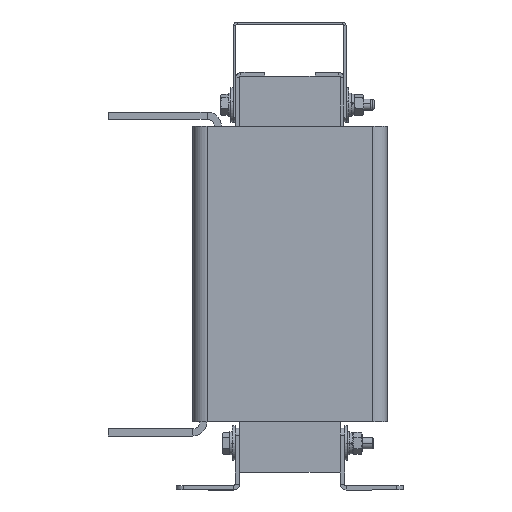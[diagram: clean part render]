
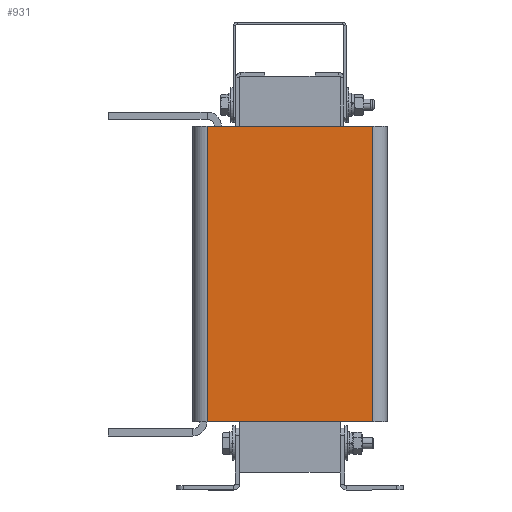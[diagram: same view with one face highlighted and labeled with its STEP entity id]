
A CAD part, left-side view. The second image highlights one B-rep face of the part: STEP entity #931.
In plain terms, the highlighted planar face has unit normal (-1, 0, 0).
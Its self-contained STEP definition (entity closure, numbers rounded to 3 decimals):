
#50 = VERTEX_POINT ( 'NONE', #5070 ) ;
#104 = CARTESIAN_POINT ( 'NONE',  ( -43.5, 67.5, 0. ) ) ;
#230 = DIRECTION ( 'NONE',  ( 0., -1., 0. ) ) ;
#398 = ORIENTED_EDGE ( 'NONE', *, *, #8044, .F. ) ;
#931 = ADVANCED_FACE ( 'NONE', ( #5205 ), #1075, .T. ) ;
#1075 = PLANE ( 'NONE',  #1789 ) ;
#1134 = VECTOR ( 'NONE', #4591, 1000. ) ;
#1225 = DIRECTION ( 'NONE',  ( 0., 0., 1. ) ) ;
#1789 = AXIS2_PLACEMENT_3D ( 'NONE', #3656, #8483, #1225 ) ;
#3010 = VECTOR ( 'NONE', #8323, 1000. ) ;
#3023 = DIRECTION ( 'NONE',  ( 0., 0., 1. ) ) ;
#3044 = EDGE_CURVE ( 'NONE', #4021, #50, #5212, .T. ) ;
#3119 = EDGE_CURVE ( 'NONE', #50, #5135, #5310, .T. ) ;
#3349 = VECTOR ( 'NONE', #3023, 1000. ) ;
#3656 = CARTESIAN_POINT ( 'NONE',  ( -43.5, 67.5, -205. ) ) ;
#4021 = VERTEX_POINT ( 'NONE', #9113 ) ;
#4591 = DIRECTION ( 'NONE',  ( 0., 0., -1. ) ) ;
#4634 = CARTESIAN_POINT ( 'NONE',  ( -43.5, -57.5, -205. ) ) ;
#4912 = ORIENTED_EDGE ( 'NONE', *, *, #6223, .T. ) ;
#5006 = CARTESIAN_POINT ( 'NONE',  ( -43.5, 57.5, 0. ) ) ;
#5070 = CARTESIAN_POINT ( 'NONE',  ( -43.5, -57.5, -205. ) ) ;
#5135 = VERTEX_POINT ( 'NONE', #6510 ) ;
#5205 = FACE_OUTER_BOUND ( 'NONE', #5393, .T. ) ;
#5212 = LINE ( 'NONE', #9827, #6048 ) ;
#5310 = LINE ( 'NONE', #4634, #3349 ) ;
#5393 = EDGE_LOOP ( 'NONE', ( #8991, #8684, #398, #4912 ) ) ;
#5928 = LINE ( 'NONE', #104, #3010 ) ;
#6048 = VECTOR ( 'NONE', #230, 1000. ) ;
#6223 = EDGE_CURVE ( 'NONE', #6559, #4021, #9296, .T. ) ;
#6266 = CARTESIAN_POINT ( 'NONE',  ( -43.5, 57.5, -205. ) ) ;
#6510 = CARTESIAN_POINT ( 'NONE',  ( -43.5, -57.5, 0. ) ) ;
#6559 = VERTEX_POINT ( 'NONE', #5006 ) ;
#8044 = EDGE_CURVE ( 'NONE', #6559, #5135, #5928, .T. ) ;
#8323 = DIRECTION ( 'NONE',  ( 0., -1., 0. ) ) ;
#8483 = DIRECTION ( 'NONE',  ( -1., 0., 0. ) ) ;
#8684 = ORIENTED_EDGE ( 'NONE', *, *, #3119, .T. ) ;
#8991 = ORIENTED_EDGE ( 'NONE', *, *, #3044, .T. ) ;
#9113 = CARTESIAN_POINT ( 'NONE',  ( -43.5, 57.5, -205. ) ) ;
#9296 = LINE ( 'NONE', #6266, #1134 ) ;
#9827 = CARTESIAN_POINT ( 'NONE',  ( -43.5, 67.5, -205. ) ) ;
